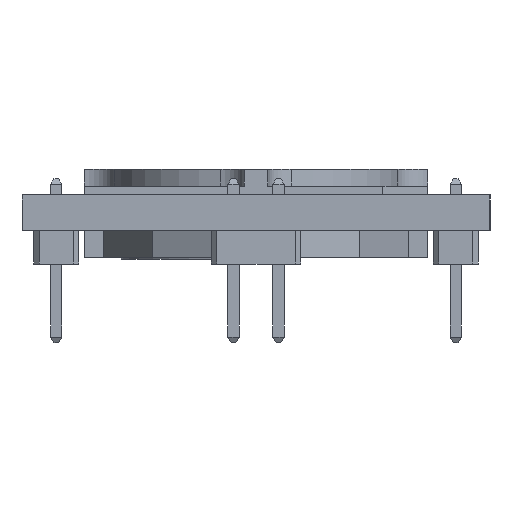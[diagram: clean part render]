
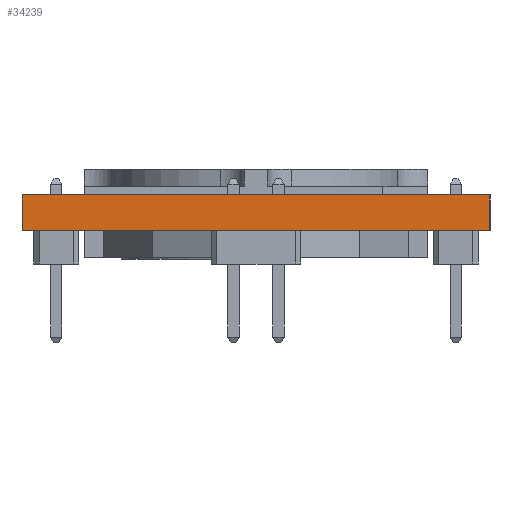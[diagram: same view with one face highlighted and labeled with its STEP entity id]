
A CAD part, left-side view. The second image highlights one B-rep face of the part: STEP entity #34239.
In plain terms, the highlighted planar face has unit normal (-1, 0, 0) as drawn and (0, -1, 0) by its records, which use the part's own axes.
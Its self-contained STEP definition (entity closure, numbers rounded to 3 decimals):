
#4691 = VECTOR ( 'NONE', #14144, 1000. ) ;
#5020 = DIRECTION ( 'NONE',  ( 0., 0., 1. ) ) ;
#5975 = CARTESIAN_POINT ( 'NONE',  ( 0., 25.4, 0. ) ) ;
#5990 = ORIENTED_EDGE ( 'NONE', *, *, #28100, .T. ) ;
#7781 = CARTESIAN_POINT ( 'NONE',  ( 46.222, 25.4, 0. ) ) ;
#8404 = CARTESIAN_POINT ( 'NONE',  ( 25.406, 25.4, -1.575 ) ) ;
#8496 = LINE ( 'NONE', #33574, #32472 ) ;
#8498 = CARTESIAN_POINT ( 'NONE',  ( 46.222, 25.4, -1.575 ) ) ;
#9211 = CARTESIAN_POINT ( 'NONE',  ( 0., 25.4, -1.575 ) ) ;
#9816 = EDGE_LOOP ( 'NONE', ( #27633, #27959, #12937, #5990 ) ) ;
#11242 = DIRECTION ( 'NONE',  ( 0., 0., 1. ) ) ;
#11379 = VECTOR ( 'NONE', #19907, 1000. ) ;
#12937 = ORIENTED_EDGE ( 'NONE', *, *, #34883, .F. ) ;
#13276 = VERTEX_POINT ( 'NONE', #8404 ) ;
#14144 = DIRECTION ( 'NONE',  ( -1., 0., 0. ) ) ;
#16268 = LINE ( 'NONE', #8498, #11379 ) ;
#16798 = DIRECTION ( 'NONE',  ( 0., 1., 0. ) ) ;
#17102 = VERTEX_POINT ( 'NONE', #23663 ) ;
#17189 = VERTEX_POINT ( 'NONE', #7781 ) ;
#17517 = AXIS2_PLACEMENT_3D ( 'NONE', #36335, #16798, #11242 ) ;
#19907 = DIRECTION ( 'NONE',  ( 0., 0., 1. ) ) ;
#20547 = EDGE_CURVE ( 'NONE', #13276, #23483, #8496, .T. ) ;
#23483 = VERTEX_POINT ( 'NONE', #33946 ) ;
#23663 = CARTESIAN_POINT ( 'NONE',  ( 46.222, 25.4, -1.575 ) ) ;
#25475 = FACE_OUTER_BOUND ( 'NONE', #9816, .T. ) ;
#27633 = ORIENTED_EDGE ( 'NONE', *, *, #33084, .T. ) ;
#27959 = ORIENTED_EDGE ( 'NONE', *, *, #20547, .F. ) ;
#28100 = EDGE_CURVE ( 'NONE', #17102, #17189, #16268, .T. ) ;
#28628 = LINE ( 'NONE', #5975, #4691 ) ;
#29703 = LINE ( 'NONE', #9211, #30994 ) ;
#30994 = VECTOR ( 'NONE', #35207, 1000. ) ;
#32472 = VECTOR ( 'NONE', #5020, 1000. ) ;
#33084 = EDGE_CURVE ( 'NONE', #17189, #23483, #28628, .T. ) ;
#33388 = PLANE ( 'NONE',  #17517 ) ;
#33574 = CARTESIAN_POINT ( 'NONE',  ( 25.406, 25.4, -1.575 ) ) ;
#33946 = CARTESIAN_POINT ( 'NONE',  ( 25.406, 25.4, 0. ) ) ;
#34239 = ADVANCED_FACE ( 'NONE', ( #25475 ), #33388, .F. ) ;
#34883 = EDGE_CURVE ( 'NONE', #17102, #13276, #29703, .T. ) ;
#35207 = DIRECTION ( 'NONE',  ( -1., 0., 0. ) ) ;
#36335 = CARTESIAN_POINT ( 'NONE',  ( 0., 25.4, -1.575 ) ) ;
